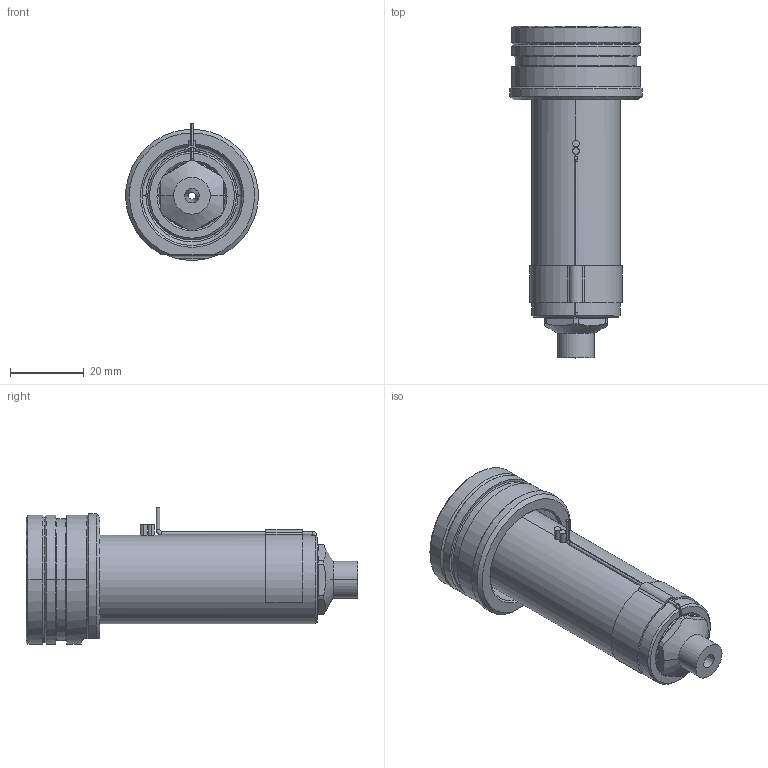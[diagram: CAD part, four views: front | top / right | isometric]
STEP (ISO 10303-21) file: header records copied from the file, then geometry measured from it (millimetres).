
FILE_DESCRIPTION((''),'2;1');
FILE_NAME('EO06_SG_SG_070_SW','2024-02-19T12:15:17',('sundharh'),(''),'CREO PARAMETRIC BY PTC INC, 2023154','CREO PARAMETRIC BY PTC INC, 2023154','');
FILE_SCHEMA(('CONFIG_CONTROL_DESIGN'));
Length unit declared in the file: millimetre
Products named in the file (1): EO06_SG_SG_070_SW
Bounding box: 35.93 x 90 x 37 mm (x, y, z)
Volume: 43143.9 mm3; surface area: 13501.9 mm2
Topology: 2 solids, 2 shells, 169 faces, 429 edges, 260 vertices
Faces by surface type: cylinder 68, plane 41, cone 30, torus 21, bspline 6, sphere 3
Entity records: 5729 total; most frequent: CARTESIAN_POINT 1602, DIRECTION 908, ORIENTED_EDGE 842, EDGE_CURVE 421, AXIS2_PLACEMENT_3D 379, VERTEX_POINT 260, CIRCLE 216, EDGE_LOOP 183
